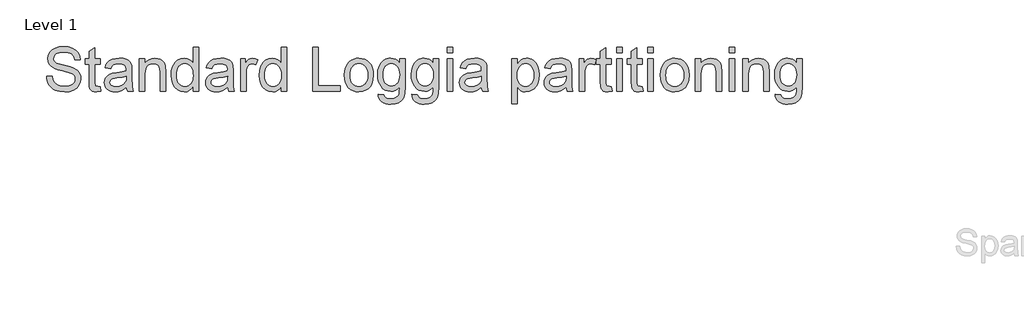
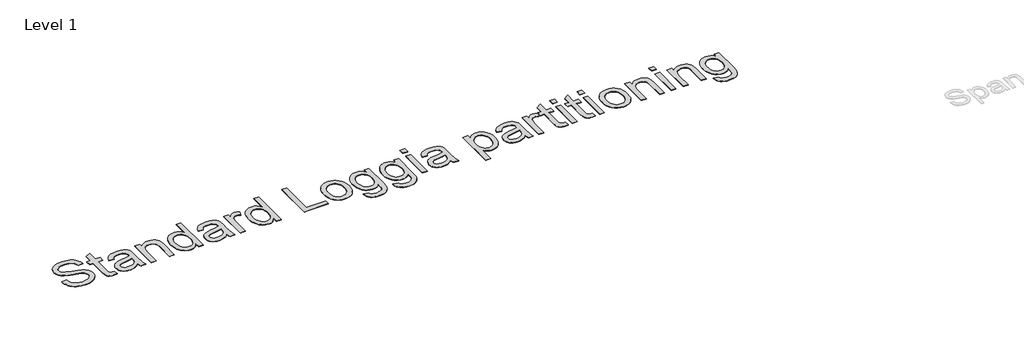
# One storey, part 37 of 69: 1 proxy.
"""IFC4 building model written with IfcOpenShell, lengths in millimetres."""

from ifc_helpers import new_model, si_unit, origin, origin_with_axes, place, context, project, spatial, polyline, outline, extrude, element, save

model = new_model("IFC4")

# Units and contexts
model_context = context("Model", 3, world=origin())
ifc_project = project(units=[si_unit("LENGTHUNIT", "METRE", prefix="MILLI")], contexts=[model_context])

# Site, building, storey
site = spatial("IfcSite", under=ifc_project)
building = spatial("IfcBuilding", under=site)
storey = spatial("IfcBuildingStorey", under=building, Name="Level 1", Elevation=0.0)

# Proxy
placement = place(None, origin())
element("IfcBuildingElementProxy", 1, Name="500mm Arial", ObjectType="500mm Arial", at=placement, inside=storey, context=model_context, shape_type="SweptSolid", body=[
    extrude(outline(polyline([(222966.175153, -5103.5785589), (223028.9603468, -5103.5785589), (223036.1647026, -5138.4200495), (223049.1938566, -5166.4250664), (223069.5193368, -5188.6512703), (223098.6126712, -5206.1563219), (223134.1745974, -5217.5146785), (223173.9058529, -5221.3007973), (223208.8852993, -5218.4343834), (223239.5114754, -5209.8351418), (223264.3281817, -5196.223508), (223281.8792185, -5178.3199176), (223292.3178701, -5157.7645111), (223295.7974207, -5136.1974291), (223293.1915899, -5115.1821701), (223285.3740975, -5097.0179966), (223269.493858, -5081.5209676), (223242.699786, -5068.507142), (223151.2811102, -5044.5334986), (223091.2703598, -5028.6685876), (223052.8726765, -5013.5700974), (223021.6180353, -4992.4475395), (222999.4684735, -4966.849084), (222986.270707, -4937.3265539), (222981.8714514, -4904.4317721), (222987.3130393, -4867.658901), (223003.6378028, -4833.3692334), (223015.7740766, -4817.8415475), (223030.4165464, -4804.3065558), (223067.2200743, -4783.2146547), (223111.3965706, -4770.3847702), (223160.2942191, -4766.108142), (223213.2692264, -4770.5840396), (223259.6223578, -4784.0117324), (223297.6981443, -4806.1153089), (223313.0112324, -4820.3170868), (223325.8411169, -4836.6188577), (223343.6527369, -4873.6216551), (223350.7344653, -4915.2229773), (223287.9492714, -4915.2229773), (223283.7492853, -4895.188737), (223276.4223023, -4877.7603275), (223265.9683222, -4862.9377488), (223252.3873452, -4850.7210009), (223235.4264524, -4841.1713974), (223214.8327249, -4834.3502521), (223162.7467657, -4828.8933358), (223109.4345333, -4834.2889384), (223089.0554036, -4841.0334416), (223072.8609316, -4850.4757462), (223060.5215563, -4861.8264386), (223051.7077169, -4874.2961054), (223046.4194132, -4887.8847466), (223044.6566453, -4902.5923622), (223049.6537091, -4926.7192897), (223064.6449004, -4946.1250649), (223078.4098183, -4954.7549634), (223100.0841992, -4963.4768324), (223167.1613497, -4981.1964818), (223236.3844784, -4998.0270831), (223278.2617122, -5012.7117061), (223314.0535647, -5035.4897329), (223339.0235551, -5063.6020487), (223353.6928497, -5096.7420851), (223358.5826145, -5134.6032738), (223352.9570857, -5173.3075254), (223336.0804991, -5209.7125145), (223308.6426337, -5241.0437977), (223271.333268, -5264.5269318), (223226.466993, -5279.1962263), (223176.3583996, -5284.0859912), (223114.8454643, -5278.8130159), (223088.1701875, -5272.2217968), (223064.2157047, -5262.9940901), (223042.8363958, -5251.1145674), (223023.886641, -5236.5679001), (223007.3664401, -5219.3540884), (222993.2757933, -5199.4731323), (222981.9251009, -5177.5688251), (222973.6247634, -5154.2849605), (222968.3747807, -5129.6215384), (222966.175153, -5103.5785589)])), origin_with_axes(), (0.0, 0.0, 1.0), 5.0),
    extrude(outline(polyline([(223578.330793, -5223.8759713), (223586.1789422, -5278.0772519), (223539.2126741, -5284.0859912), (223509.0770074, -5281.4801604), (223486.6055488, -5273.662668), (223470.7253094, -5261.6145326), (223460.3632998, -5246.316773), (223454.6611289, -5220.0438672), (223452.7604053, -5175.0702933), (223452.7604053, -4970.160022), (223405.6715099, -4970.160022), (223405.6715099, -4907.3748281), (223452.7604053, -4907.3748281), (223452.7604053, -4817.7342486), (223515.5455991, -4780.8234218), (223515.5455991, -4907.3748281), (223578.330793, -4907.3748281), (223578.330793, -4970.160022), (223515.5455991, -4970.160022), (223515.5455991, -5173.2308833), (223518.8565371, -5205.6044989), (223529.5864286, -5217.0701544), (223550.984898, -5221.3007973), (223578.330793, -5223.8759713)])), origin_with_axes(), (0.0, 0.0, 1.0), 5.0),
    extrude(outline(polyline([(223876.5604637, -5229.1489466), (223846.5627527, -5254.8700294), (223815.6759935, -5271.7006307), (223783.195079, -5280.989651), (223748.4149021, -5284.0859912), (223720.4597025, -5282.2235886), (223695.9457325, -5276.6363808), (223674.872992, -5267.3243678), (223657.2414809, -5254.2875496), (223643.3194467, -5238.3536606), (223633.3751365, -5220.3504355), (223627.4085504, -5200.2778741), (223625.4196883, -5178.1359766), (223628.424058, -5152.1083254), (223637.4371669, -5128.4719072), (223651.3400406, -5108.2383975), (223669.0137048, -5092.4194717), (223689.7837091, -5080.4633068), (223712.9756032, -5071.81808), (223767.2995111, -5062.3757754), (223831.4949193, -5052.4429615), (223876.1925817, -5040.793365), (223876.5604637, -5026.8138492), (223872.2378503, -4998.7935039), (223859.2700099, -4980.4607178), (223846.1948707, -4972.5205981), (223830.268646, -4966.849084), (223789.8629402, -4962.3118727), (223752.461604, -4965.3315708), (223726.3419824, -4974.3906649), (223708.5303624, -4991.1446241), (223696.0530314, -5017.2489173), (223633.2678376, -5009.4007681), (223644.1663417, -4975.0651152), (223660.4297915, -4948.0871022), (223683.5757004, -4927.4550537), (223715.1215815, -4912.157294), (223753.7032057, -4902.6843327), (223797.9563441, -4899.5266789), (223840.4007293, -4902.3164507), (223874.0466034, -4910.6857661), (223899.4151327, -4923.270396), (223917.0274832, -4938.7061114), (223928.7077365, -4957.7899899), (223936.2799743, -4981.3191091), (223939.3456576, -5036.2561538), (223939.3456576, -5114.3697641), (223942.5339682, -5223.4467756), (223947.2551205, -5250.4094602), (223955.041956, -5276.2378419), (223892.2567622, -5276.2378419), (223882.201321, -5254.4101769), (223876.5604637, -5229.1489466)]), holes=[polyline([(223876.5604637, -5103.5785589), (223834.3766616, -5114.0325389), (223775.2702877, -5122.83105), (223721.2529481, -5133.0091185), (223707.1967902, -5139.9682196), (223696.7887954, -5149.5638083), (223690.3508605, -5161.0601206), (223688.2048822, -5173.7213926), (223692.8800492, -5192.3914039), (223706.9055503, -5207.6891635), (223729.9748171, -5217.8978889), (223761.7812812, -5221.3007973), (223795.5037974, -5217.5453353), (223825.3022391, -5206.2789492), (223849.4598234, -5189.6782742), (223866.2597679, -5169.9199453), (223873.7093783, -5149.5638083), (223876.1925817, -5121.359522), (223876.5604637, -5103.5785589)])]), origin_with_axes(), (0.0, 0.0, 1.0), 5.0),
    extrude(outline(polyline([(224025.6752991, -5276.2378419), (224025.6752991, -4907.3748281), (224088.4604929, -4907.3748281), (224088.4604929, -4958.8783074), (224110.2728296, -4932.9119699), (224136.4690933, -4914.364586), (224167.0492842, -4903.2361557), (224202.0134021, -4899.5266789), (224232.961475, -4902.5157201), (224261.303717, -4911.4828437), (224284.9401352, -4925.3090754), (224301.7707365, -4942.8754406), (224313.1904067, -4964.1359543), (224320.5940319, -4989.044631), (224323.9049699, -5049.7451602), (224323.9049699, -5276.2378419), (224261.119776, -5276.2378419), (224261.119776, -5058.2064461), (224259.3110229, -5025.7408601), (224253.8847634, -5002.6562649), (224243.8753075, -4986.1169035), (224228.3169648, -4973.2870189), (224208.3746949, -4965.0556593), (224185.2134577, -4962.3118727), (224166.1487397, -4963.8523786), (224148.4405866, -4968.4738961), (224132.0889983, -4976.1764254), (224117.0939749, -4986.9599664), (224104.5668265, -5002.0507924), (224095.6188634, -5022.6751768), (224090.2500856, -5048.8331195), (224088.4604929, -5080.5246205), (224088.4604929, -5276.2378419), (224025.6752991, -5276.2378419)])), origin_with_axes(), (0.0, 0.0, 1.0), 5.0),
    extrude(outline(polyline([(224637.8309391, -5276.2378419), (224637.8309391, -5217.0088407), (224619.0459647, -5246.355094), (224596.2909304, -5267.3167036), (224569.5658363, -5279.8936693), (224538.8706824, -5284.0859912), (224498.2810356, -5278.0159382), (224461.1249541, -5259.8057795), (224429.6710435, -5230.7277735), (224406.1879094, -5192.0541787), (224391.5646001, -5145.3484937), (224386.6901637, -5092.174217), (224391.1813897, -5039.6590622), (224404.6550678, -4992.2329417), (224414.7564942, -4971.1027196), (224427.0958695, -4952.5936567), (224441.6731936, -4936.705753), (224458.4884664, -4923.4390086), (224496.456954, -4905.5047613), (224538.6254277, -4899.5266789), (224569.3435743, -4903.8033071), (224596.5055283, -4916.6331917), (224619.5288098, -4936.29955), (224637.8309391, -4961.0855994), (224637.8309391, -4773.9562912), (224700.6161329, -4773.9562912), (224700.6161329, -5276.2378419), (224637.8309391, -5276.2378419)]), holes=[polyline([(224449.4753575, -5091.9289624), (224451.2457896, -5122.3750296), (224456.5570859, -5148.7207454), (224465.4092465, -5170.9661098), (224477.8022712, -5189.1111227), (224492.6018573, -5203.1941054), (224508.6737019, -5213.2533787), (224526.0178052, -5219.2889427), (224544.634167, -5221.3007973), (224563.3386671, -5219.3809132), (224580.5793036, -5213.6212607), (224596.3560762, -5204.0218399), (224610.6689851, -5190.5826507), (224622.55234, -5173.1963944), (224631.0404506, -5151.7557718), (224636.1333169, -5126.2607831), (224637.8309391, -5096.7114283), (224636.1026601, -5064.3148201), (224630.9178232, -5036.5320652), (224622.2764285, -5013.3631638), (224610.1784758, -4994.8081156), (224595.5513344, -4980.5910094), (224579.3223734, -4970.4359334), (224561.491593, -4964.3428879), (224542.058993, -4962.3118727), (224523.0747492, -4964.2624137), (224505.730646, -4970.1140367), (224490.0266833, -4979.8667417), (224475.9628612, -4993.5205286), (224464.3745783, -5011.3743017), (224456.0972335, -5033.726965), (224451.1308265, -5060.5785186), (224449.4753575, -5091.9289624)])]), origin_with_axes(), (0.0, 0.0, 1.0), 5.0),
    extrude(outline(polyline([(225030.2384006, -5229.1489466), (225000.2406896, -5254.8700294), (224969.3539304, -5271.7006307), (224936.8730159, -5280.989651), (224902.0928389, -5284.0859912), (224874.1376394, -5282.2235886), (224849.6236694, -5276.6363808), (224828.5509288, -5267.3243678), (224810.9194178, -5254.2875496), (224796.9973835, -5238.3536606), (224787.0530734, -5220.3504355), (224781.0864873, -5200.2778741), (224779.0976252, -5178.1359766), (224782.1019948, -5152.1083254), (224791.1151037, -5128.4719072), (224805.0179775, -5108.2383975), (224822.6916416, -5092.4194717), (224843.461646, -5080.4633068), (224866.6535401, -5071.81808), (224920.977448, -5062.3757754), (224985.1728562, -5052.4429615), (225029.8705186, -5040.793365), (225030.2384006, -5026.8138492), (225025.9157871, -4998.7935039), (225012.9479468, -4980.4607178), (224999.8728076, -4972.5205981), (224983.9465829, -4966.849084), (224943.5408771, -4962.3118727), (224906.1395409, -4965.3315708), (224880.0199192, -4974.3906649), (224862.2082993, -4991.1446241), (224849.7309683, -5017.2489173), (224786.9457744, -5009.4007681), (224797.8442786, -4975.0651152), (224814.1077284, -4948.0871022), (224837.2536373, -4927.4550537), (224868.7995184, -4912.157294), (224907.3811426, -4902.6843327), (224951.634281, -4899.5266789), (224994.0786661, -4902.3164507), (225027.7245403, -4910.6857661), (225053.0930695, -4923.270396), (225070.7054201, -4938.7061114), (225082.3856734, -4957.7899899), (225089.9579111, -4981.3191091), (225093.0235944, -5036.2561538), (225093.0235944, -5114.3697641), (225096.2119051, -5223.4467756), (225100.9330573, -5250.4094602), (225108.7198929, -5276.2378419), (225045.9346991, -5276.2378419), (225035.8792578, -5254.4101769), (225030.2384006, -5229.1489466)]), holes=[polyline([(225030.2384006, -5103.5785589), (224988.0545985, -5114.0325389), (224928.9482246, -5122.83105), (224874.930885, -5133.0091185), (224860.8747271, -5139.9682196), (224850.4667323, -5149.5638083), (224844.0287974, -5161.0601206), (224841.8828191, -5173.7213926), (224846.5579861, -5192.3914039), (224860.5834871, -5207.6891635), (224883.6527539, -5217.8978889), (224915.4592181, -5221.3007973), (224949.1817343, -5217.5453353), (224978.9801759, -5206.2789492), (225003.1377603, -5189.6782742), (225019.9377047, -5169.9199453), (225027.3873151, -5149.5638083), (225029.8705186, -5121.359522), (225030.2384006, -5103.5785589)])]), origin_with_axes(), (0.0, 0.0, 1.0), 5.0),
    extrude(outline(polyline([(225179.353236, -5276.2378419), (225179.353236, -4907.3748281), (225234.2902806, -4907.3748281), (225234.2902806, -4961.9439907), (225254.585104, -4930.3061391), (225273.2857721, -4911.6667847), (225292.0477538, -4902.5617053), (225312.5265182, -4899.5266789), (225343.7964878, -4904.3704585), (225375.5569667, -4918.9017973), (225354.587693, -4975.1877426), (225332.5147733, -4965.5308402), (225310.4418536, -4962.3118727), (225291.6952002, -4965.4082128), (225274.941241, -4974.6972332), (225261.4062493, -4989.4738267), (225252.3164983, -5009.0328861), (225244.6829469, -5044.104303), (225242.1384298, -5082.3640305), (225242.1384298, -5276.2378419), (225179.353236, -5276.2378419)])), origin_with_axes(), (0.0, 0.0, 1.0), 5.0),
    extrude(outline(polyline([(225642.3940406, -5276.2378419), (225642.3940406, -5217.0088407), (225623.6090662, -5246.355094), (225600.8540319, -5267.3167036), (225574.1289378, -5279.8936693), (225543.4337839, -5284.0859912), (225502.8441371, -5278.0159382), (225465.6880555, -5259.8057795), (225434.234145, -5230.7277735), (225410.7510109, -5192.0541787), (225396.1277016, -5145.3484937), (225391.2532652, -5092.174217), (225395.7444912, -5039.6590622), (225409.2181693, -4992.2329417), (225419.3195957, -4971.1027196), (225431.658971, -4952.5936567), (225446.2362951, -4936.705753), (225463.0515679, -4923.4390086), (225501.0200555, -4905.5047613), (225543.1885292, -4899.5266789), (225573.9066758, -4903.8033071), (225601.0686298, -4916.6331917), (225624.0919113, -4936.29955), (225642.3940406, -4961.0855994), (225642.3940406, -4773.9562912), (225705.1792344, -4773.9562912), (225705.1792344, -5276.2378419), (225642.3940406, -5276.2378419)]), holes=[polyline([(225454.038459, -5091.9289624), (225455.8088911, -5122.3750296), (225461.1201874, -5148.7207454), (225469.9723479, -5170.9661098), (225482.3653727, -5189.1111227), (225497.1649588, -5203.1941054), (225513.2368034, -5213.2533787), (225530.5809067, -5219.2889427), (225549.1972685, -5221.3007973), (225567.9017686, -5219.3809132), (225585.1424051, -5213.6212607), (225600.9191777, -5204.0218399), (225615.2320866, -5190.5826507), (225627.1154415, -5173.1963944), (225635.6035521, -5151.7557718), (225640.6964184, -5126.2607831), (225642.3940406, -5096.7114283), (225640.6657616, -5064.3148201), (225635.4809247, -5036.5320652), (225626.83953, -5013.3631638), (225614.7415773, -4994.8081156), (225600.1144358, -4980.5910094), (225583.8854749, -4970.4359334), (225566.0546945, -4964.3428879), (225546.6220945, -4962.3118727), (225527.6378507, -4964.2624137), (225510.2937475, -4970.1140367), (225494.5897848, -4979.8667417), (225480.5259627, -4993.5205286), (225468.9376798, -5011.3743017), (225460.6603349, -5033.726965), (225455.693928, -5060.5785186), (225454.038459, -5091.9289624)])]), origin_with_axes(), (0.0, 0.0, 1.0), 5.0),
    extrude(outline(polyline([(226003.4089052, -5276.2378419), (226003.4089052, -4773.9562912), (226066.194099, -4773.9562912), (226066.194099, -5213.4526481), (226317.3348744, -5213.4526481), (226317.3348744, -5276.2378419), (226003.4089052, -5276.2378419)])), origin_with_axes(), (0.0, 0.0, 1.0), 5.0),
    extrude(outline(polyline([(226364.4237698, -5091.806335), (226367.819014, -5044.0353251), (226378.0047468, -5002.8708627), (226394.980968, -4968.3129478), (226418.7476777, -4940.3615803), (226442.6753358, -4922.496311), (226469.0861974, -4909.7354042), (226497.9802624, -4902.0788602), (226529.3575309, -4899.5266789), (226563.99592, -4902.6345153), (226595.315707, -4911.9580246), (226623.3168918, -4927.4972068), (226647.9994744, -4949.2520619), (226668.1448457, -4976.4868258), (226682.5343967, -5008.4657347), (226691.1681273, -5045.1887884), (226694.0460374, -5086.6559871), (226688.9570032, -5150.0849744), (226682.5957103, -5176.1202898), (226673.6899004, -5198.3694863), (226662.3507043, -5217.5874884), (226648.6892531, -5234.5292207), (226632.7055469, -5249.1946832), (226614.3995855, -5261.5838758), (226573.6719829, -5278.4604623), (226529.3575309, -5284.0859912), (226494.2133041, -5280.989651), (226462.6022772, -5271.7006307), (226434.5244504, -5256.21893), (226409.9798235, -5234.5445492), (226390.04905, -5207.04537), (226375.8127832, -5174.0892746), (226367.2710231, -5135.6762629), (226364.4237698, -5091.806335)]), holes=[polyline([(226427.2089636, -5091.6837077), (226429.025381, -5122.1374391), (226434.474633, -5148.5061475), (226443.5567198, -5170.789833), (226456.2716412, -5188.9884954), (226471.7380134, -5203.1251275), (226489.0744525, -5213.2227218), (226508.2809583, -5219.2812785), (226529.3575309, -5221.3007973), (226550.3268047, -5219.2697821), (226569.4566684, -5213.1767366), (226586.7471222, -5203.0216607), (226602.198166, -5188.8045544), (226614.9130874, -5170.4257831), (226623.9951742, -5147.785712), (226629.4444262, -5120.8843411), (226631.2608436, -5089.7216704), (226629.4329299, -5060.2336292), (226623.9491889, -5034.5546995), (226614.8096206, -5012.6848813), (226602.014225, -4994.6241746), (226586.5056996, -4980.4875425), (226569.2267422, -4970.3899482), (226550.1773526, -4964.3313916), (226529.3575309, -4962.3118727), (226508.2809583, -4964.3237274), (226489.0744525, -4970.3592914), (226471.7380134, -4980.4185647), (226456.2716412, -4994.5015473), (226443.5567198, -5012.6465603), (226434.474633, -5034.8919247), (226429.025381, -5061.2376405), (226427.2089636, -5091.6837077)])]), origin_with_axes(), (0.0, 0.0, 1.0), 5.0),
    extrude(outline(polyline([(226748.9830821, -5307.6304389), (226811.7682759, -5315.4785881), (226818.6967201, -5335.0989612), (226832.124413, -5348.5879677), (226858.5199461, -5359.0726045), (226893.0701968, -5362.5674835), (226929.91971, -5358.612752), (226957.3269187, -5346.7485577), (226976.3341551, -5327.7413213), (226987.9837516, -5302.3574636), (226991.38666, -5275.3487938), (226992.2757082, -5229.1489466), (226971.3830766, -5249.7503383), (226948.0685551, -5264.4656181), (226922.3321439, -5273.294786), (226894.1738428, -5276.2378419), (226859.7500515, -5272.8119409), (226829.4419401, -5262.5342376), (226803.2495084, -5245.4047322), (226781.1727566, -5221.4234247), (226763.6562087, -5192.651987), (226751.1443888, -5161.1520911), (226743.6372968, -5126.9237371), (226741.1349328, -5089.966925), (226745.6261588, -5039.2758518), (226759.0998369, -4992.6621373), (226781.0807861, -4953.1608081), (226795.0832946, -4937.2154229), (226811.0938256, -4923.8068906), (226828.8556282, -4913.1842979), (226848.1119513, -4905.5967318), (226868.8627951, -4901.0441921), (226891.1081595, -4899.5266789), (226920.4697413, -4902.9602442), (226947.1181933, -4913.26094), (226971.0535156, -4930.4287665), (226992.2757082, -4954.4637235), (226992.2757082, -4907.3748281), (227055.060902, -4907.3748281), (227055.060902, -5225.8380086), (227050.7689454, -5299.3684224), (227045.4039997, -5326.7181495), (227037.8930756, -5347.79089), (227015.712857, -5379.9039225), (226983.507854, -5404.5060309), (226963.8223351, -5413.6264387), (226941.9831738, -5420.1410157), (226891.8439235, -5425.3526773), (226861.0836238, -5423.5170994), (226833.4273284, -5418.0103658), (226808.8750373, -5408.8324765), (226787.4267506, -5395.9834314), (226770.1018078, -5379.4479021), (226757.9195489, -5359.2105603), (226750.8799736, -5335.2714059), (226748.9830821, -5307.6304389)]), holes=[polyline([(226803.9201267, -5085.6749684), (226805.5947562, -5116.7188439), (226810.6186447, -5143.2638291), (226818.9917922, -5165.3099241), (226830.7141987, -5182.8571288), (226844.9657939, -5196.2426685), (226860.9265075, -5205.8037683), (226878.5963396, -5211.5404281), (226897.9752901, -5213.4526481), (226917.1626354, -5211.5519245), (226934.7481612, -5205.8497535), (226950.7318675, -5196.3461353), (226965.1137542, -5183.0410698), (226976.9971091, -5165.6663098), (226985.4852197, -5143.9536078), (226990.5780861, -5117.9029641), (226992.2757082, -5087.5143784), (226990.5282687, -5058.3942192), (226985.2859503, -5033.0831715), (226976.5487529, -5011.5812353), (226964.3166766, -4993.8884106), (226949.6243894, -4980.0736753), (226933.5065595, -4970.2060072), (226915.9631868, -4964.2854063), (226896.9942714, -4962.3118727), (226878.3434207, -4964.2547495), (226861.1411053, -4970.0833799), (226845.3873253, -4979.7977638), (226831.0820806, -4993.3979013), (226819.1987258, -5010.8224787), (226810.7106152, -5032.0101824), (226805.6177488, -5056.9610123), (226803.9201267, -5085.6749684)])]), origin_with_axes(), (0.0, 0.0, 1.0), 5.0),
    extrude(outline(polyline([(227133.5423943, -5307.6304389), (227196.3275882, -5315.4785881), (227203.2560324, -5335.0989612), (227216.6837253, -5348.5879677), (227243.0792584, -5359.0726045), (227277.6295091, -5362.5674835), (227314.4790223, -5358.612752), (227341.8862309, -5346.7485577), (227360.8934674, -5327.7413213), (227372.5430639, -5302.3574636), (227375.9459723, -5275.3487938), (227376.8350205, -5229.1489466), (227355.9423888, -5249.7503383), (227332.6278674, -5264.4656181), (227306.8914562, -5273.294786), (227278.7331551, -5276.2378419), (227244.3093638, -5272.8119409), (227214.0012524, -5262.5342376), (227187.8088207, -5245.4047322), (227165.7320689, -5221.4234247), (227148.215521, -5192.651987), (227135.7037011, -5161.1520911), (227128.1966091, -5126.9237371), (227125.6942451, -5089.966925), (227130.1854711, -5039.2758518), (227143.6591492, -4992.6621373), (227165.6400984, -4953.1608081), (227179.6426069, -4937.2154229), (227195.6531379, -4923.8068906), (227213.4149404, -4913.1842979), (227232.6712636, -4905.5967318), (227253.4221074, -4901.0441921), (227275.6674718, -4899.5266789), (227305.0290536, -4902.9602442), (227331.6775056, -4913.26094), (227355.6128279, -4930.4287665), (227376.8350205, -4954.4637235), (227376.8350205, -4907.3748281), (227439.6202143, -4907.3748281), (227439.6202143, -5225.8380086), (227435.3282577, -5299.3684224), (227429.963312, -5326.7181495), (227422.4523879, -5347.79089), (227400.2721693, -5379.9039225), (227368.0671663, -5404.5060309), (227348.3816474, -5413.6264387), (227326.5424861, -5420.1410157), (227276.4032358, -5425.3526773), (227245.6429361, -5423.5170994), (227217.9866407, -5418.0103658), (227193.4343496, -5408.8324765), (227171.9860628, -5395.9834314), (227154.6611201, -5379.4479021), (227142.4788611, -5359.2105603), (227135.4392859, -5335.2714059), (227133.5423943, -5307.6304389)]), holes=[polyline([(227188.479439, -5085.6749684), (227190.1540685, -5116.7188439), (227195.177957, -5143.2638291), (227203.5511045, -5165.3099241), (227215.2735109, -5182.8571288), (227229.5251062, -5196.2426685), (227245.4858198, -5205.8037683), (227263.1556519, -5211.5404281), (227282.5346024, -5213.4526481), (227301.7219477, -5211.5519245), (227319.3074735, -5205.8497535), (227335.2911798, -5196.3461353), (227349.6730665, -5183.0410698), (227361.5564214, -5165.6663098), (227370.044532, -5143.9536078), (227375.1373984, -5117.9029641), (227376.8350205, -5087.5143784), (227375.087581, -5058.3942192), (227369.8452626, -5033.0831715), (227361.1080652, -5011.5812353), (227348.8759889, -4993.8884106), (227334.1837017, -4980.0736753), (227318.0658718, -4970.2060072), (227300.5224991, -4964.2854063), (227281.5535837, -4962.3118727), (227262.902733, -4964.2547495), (227245.7004176, -4970.0833799), (227229.9466376, -4979.7977638), (227215.6413929, -4993.3979013), (227203.7580381, -5010.8224787), (227195.2699275, -5032.0101824), (227190.1770611, -5056.9610123), (227188.479439, -5085.6749684)])]), origin_with_axes(), (0.0, 0.0, 1.0), 5.0),
    extrude(outline(polyline([(227533.7980051, -5276.2378419), (227533.7980051, -4907.3748281), (227596.5831989, -4907.3748281), (227596.5831989, -5276.2378419), (227533.7980051, -5276.2378419)])), origin_with_axes(), (0.0, 0.0, 1.0), 5.0),
    extrude(outline(polyline([(227533.7980051, -4836.741485), (227533.7980051, -4773.9562912), (227596.5831989, -4773.9562912), (227596.5831989, -4836.741485), (227533.7980051, -4836.741485)])), origin_with_axes(), (0.0, 0.0, 1.0), 5.0),
    extrude(outline(polyline([(227926.2054666, -5229.1489466), (227896.2077556, -5254.8700294), (227865.3209964, -5271.7006307), (227832.8400819, -5280.989651), (227798.059905, -5284.0859912), (227770.1047054, -5282.2235886), (227745.5907354, -5276.6363808), (227724.5179949, -5267.3243678), (227706.8864838, -5254.2875496), (227692.9644496, -5238.3536606), (227683.0201394, -5220.3504355), (227677.0535533, -5200.2778741), (227675.0646912, -5178.1359766), (227678.0690609, -5152.1083254), (227687.0821698, -5128.4719072), (227700.9850435, -5108.2383975), (227718.6587077, -5092.4194717), (227739.428712, -5080.4633068), (227762.6206061, -5071.81808), (227816.9445141, -5062.3757754), (227881.1399222, -5052.4429615), (227925.8375846, -5040.793365), (227926.2054666, -5026.8138492), (227921.8828532, -4998.7935039), (227908.9150128, -4980.4607178), (227895.8398736, -4972.5205981), (227879.9136489, -4966.849084), (227839.5079431, -4962.3118727), (227802.1066069, -4965.3315708), (227775.9869853, -4974.3906649), (227758.1753653, -4991.1446241), (227745.6980343, -5017.2489173), (227682.9128405, -5009.4007681), (227693.8113446, -4975.0651152), (227710.0747945, -4948.0871022), (227733.2207033, -4927.4550537), (227764.7665844, -4912.157294), (227803.3482086, -4902.6843327), (227847.601347, -4899.5266789), (227890.0457322, -4902.3164507), (227923.6916063, -4910.6857661), (227949.0601356, -4923.270396), (227966.6724861, -4938.7061114), (227978.3527394, -4957.7899899), (227985.9249772, -4981.3191091), (227988.9906605, -5036.2561538), (227988.9906605, -5114.3697641), (227992.1789711, -5223.4467756), (227996.9001234, -5250.4094602), (228004.6869589, -5276.2378419), (227941.9017651, -5276.2378419), (227931.8463239, -5254.4101769), (227926.2054666, -5229.1489466)]), holes=[polyline([(227926.2054666, -5103.5785589), (227884.0216645, -5114.0325389), (227824.9152906, -5122.83105), (227770.897951, -5133.0091185), (227756.8417931, -5139.9682196), (227746.4337983, -5149.5638083), (227739.9958634, -5161.0601206), (227737.8498851, -5173.7213926), (227742.5250521, -5192.3914039), (227756.5505532, -5207.6891635), (227779.61982, -5217.8978889), (227811.4262841, -5221.3007973), (227845.1488004, -5217.5453353), (227874.947242, -5206.2789492), (227899.1048263, -5189.6782742), (227915.9047708, -5169.9199453), (227923.3543812, -5149.5638083), (227925.8375846, -5121.359522), (227926.2054666, -5103.5785589)])]), origin_with_axes(), (0.0, 0.0, 1.0), 5.0),
    extrude(outline(polyline([(228271.5240328, -5417.5045281), (228271.5240328, -4907.3748281), (228334.3092266, -4907.3748281), (228334.3092266, -4968.9337486), (228354.787991, -4938.5681556), (228377.719302, -4916.8784463), (228404.4520604, -4903.8646207), (228436.3351666, -4899.5266789), (228458.2318095, -4901.0441921), (228478.7948802, -4905.5967318), (228498.0243787, -4913.1842979), (228515.9203049, -4923.8068906), (228532.0917843, -4937.1885981), (228546.1479422, -4953.0535092), (228567.9142935, -4992.2329417), (228581.0660749, -5038.4941026), (228585.450002, -5088.9859064), (228580.4989235, -5142.6813493), (228565.6456879, -5190.7052781), (228554.6245565, -5211.9811201), (228541.3654762, -5230.6204745), (228525.8684472, -5246.6233413), (228508.1334693, -5259.9897205), (228469.4292177, -5278.0619235), (228428.732272, -5284.0859912), (228399.8688638, -5280.0546176), (228374.1017957, -5267.960497), (228352.0442045, -5249.704353), (228334.3092266, -5227.1869092), (228334.3092266, -5417.5045281), (228271.5240328, -5417.5045281)]), holes=[polyline([(228334.3092266, -5094.749391), (228336.0068487, -5125.0076851), (228341.0997151, -5151.0353362), (228349.5878257, -5172.8323445), (228361.4711806, -5190.3987097), (228375.7764252, -5203.9183731), (228391.5302053, -5213.5752754), (228408.7325206, -5219.3694169), (228427.3833714, -5221.3007973), (228446.3024694, -5219.300439), (228463.8190173, -5213.2993639), (228479.9330151, -5203.2975722), (228494.6444628, -5189.2950637), (228506.9033639, -5171.0925692), (228515.6597218, -5148.4908191), (228520.9135366, -5121.4898135), (228522.6648081, -5090.0895524), (228520.9556897, -5060.0918414), (228515.8283344, -5034.1101754), (228507.2827422, -5012.1445547), (228495.3189132, -4994.194979), (228480.9791796, -4980.24612), (228465.3058737, -4970.2826493), (228448.2989957, -4964.3045669), (228429.9585454, -4962.3118727), (228411.6755766, -4964.4310263), (228394.4732612, -4970.788487), (228378.3515992, -4981.3842549), (228363.3105906, -4996.2183299), (228350.6224938, -5015.0914427), (228341.5595676, -5037.8043238), (228336.1218119, -5064.3569732), (228334.3092266, -5094.749391)])]), origin_with_axes(), (0.0, 0.0, 1.0), 5.0),
    extrude(outline(polyline([(228891.527822, -5229.1489466), (228861.5301109, -5254.8700294), (228830.6433518, -5271.7006307), (228798.1624373, -5280.989651), (228763.3822603, -5284.0859912), (228735.4270608, -5282.2235886), (228710.9130908, -5276.6363808), (228689.8403502, -5267.3243678), (228672.2088392, -5254.2875496), (228658.2868049, -5238.3536606), (228648.3424947, -5220.3504355), (228642.3759086, -5200.2778741), (228640.3870466, -5178.1359766), (228643.3914162, -5152.1083254), (228652.4045251, -5128.4719072), (228666.3073988, -5108.2383975), (228683.981063, -5092.4194717), (228704.7510673, -5080.4633068), (228727.9429614, -5071.81808), (228782.2668694, -5062.3757754), (228846.4622776, -5052.4429615), (228891.15994, -5040.793365), (228891.527822, -5026.8138492), (228887.2052085, -4998.7935039), (228874.2373682, -4980.4607178), (228861.1622289, -4972.5205981), (228845.2360042, -4966.849084), (228804.8302984, -4962.3118727), (228767.4289623, -4965.3315708), (228741.3093406, -4974.3906649), (228723.4977207, -4991.1446241), (228711.0203897, -5017.2489173), (228648.2351958, -5009.4007681), (228659.1336999, -4975.0651152), (228675.3971498, -4948.0871022), (228698.5430587, -4927.4550537), (228730.0889397, -4912.157294), (228768.670564, -4902.6843327), (228812.9237023, -4899.5266789), (228855.3680875, -4902.3164507), (228889.0139617, -4910.6857661), (228914.3824909, -4923.270396), (228931.9948414, -4938.7061114), (228943.6750948, -4957.7899899), (228951.2473325, -4981.3191091), (228954.3130158, -5036.2561538), (228954.3130158, -5114.3697641), (228957.5013264, -5223.4467756), (228962.2224787, -5250.4094602), (228970.0093143, -5276.2378419), (228907.2241204, -5276.2378419), (228897.1686792, -5254.4101769), (228891.527822, -5229.1489466)]), holes=[polyline([(228891.527822, -5103.5785589), (228849.3440199, -5114.0325389), (228790.237646, -5122.83105), (228736.2203063, -5133.0091185), (228722.1641484, -5139.9682196), (228711.7561537, -5149.5638083), (228705.3182187, -5161.0601206), (228703.1722404, -5173.7213926), (228707.8474075, -5192.3914039), (228721.8729085, -5207.6891635), (228744.9421753, -5217.8978889), (228776.7486395, -5221.3007973), (228810.4711557, -5217.5453353), (228840.2695973, -5206.2789492), (228864.4271817, -5189.6782742), (228881.2271261, -5169.9199453), (228888.6767365, -5149.5638083), (228891.15994, -5121.359522), (228891.527822, -5103.5785589)])]), origin_with_axes(), (0.0, 0.0, 1.0), 5.0),
    extrude(outline(polyline([(229040.6426573, -5276.2378419), (229040.6426573, -4907.3748281), (229095.579702, -4907.3748281), (229095.579702, -4961.9439907), (229115.8745254, -4930.3061391), (229134.5751934, -4911.6667847), (229153.3371752, -4902.5617053), (229173.8159396, -4899.5266789), (229205.0859092, -4904.3704585), (229236.8463881, -4918.9017973), (229215.8771144, -4975.1877426), (229193.8041947, -4965.5308402), (229171.731275, -4962.3118727), (229152.9846216, -4965.4082128), (229136.2306624, -4974.6972332), (229122.6956707, -4989.4738267), (229113.6059197, -5009.0328861), (229105.9723683, -5044.104303), (229103.4278512, -5082.3640305), (229103.4278512, -5276.2378419), (229040.6426573, -5276.2378419)])), origin_with_axes(), (0.0, 0.0, 1.0), 5.0),
    extrude(outline(polyline([(229409.5056712, -5223.8759713), (229417.3538204, -5278.0772519), (229370.3875524, -5284.0859912), (229340.2518856, -5281.4801604), (229317.780427, -5273.662668), (229301.9001876, -5261.6145326), (229291.5381781, -5246.316773), (229285.8360071, -5220.0438672), (229283.9352835, -5175.0702933), (229283.9352835, -4970.160022), (229236.8463881, -4970.160022), (229236.8463881, -4907.3748281), (229283.9352835, -4907.3748281), (229283.9352835, -4817.7342486), (229346.7204773, -4780.8234218), (229346.7204773, -4907.3748281), (229409.5056712, -4907.3748281), (229409.5056712, -4970.160022), (229346.7204773, -4970.160022), (229346.7204773, -5173.2308833), (229350.0314153, -5205.6044989), (229360.7613068, -5217.0701544), (229382.1597762, -5221.3007973), (229409.5056712, -5223.8759713)])), origin_with_axes(), (0.0, 0.0, 1.0), 5.0),
    extrude(outline(polyline([(229472.290865, -4836.741485), (229472.290865, -4773.9562912), (229535.0760589, -4773.9562912), (229535.0760589, -4836.741485), (229472.290865, -4836.741485)])), origin_with_axes(), (0.0, 0.0, 1.0), 5.0),
    extrude(outline(polyline([(229472.290865, -5276.2378419), (229472.290865, -4907.3748281), (229535.0760589, -4907.3748281), (229535.0760589, -5276.2378419), (229472.290865, -5276.2378419)])), origin_with_axes(), (0.0, 0.0, 1.0), 5.0),
    extrude(outline(polyline([(229762.6723865, -5223.8759713), (229770.5205358, -5278.0772519), (229723.5542677, -5284.0859912), (229693.418601, -5281.4801604), (229670.9471424, -5273.662668), (229655.066903, -5261.6145326), (229644.7048934, -5246.316773), (229639.0027225, -5220.0438672), (229637.1019989, -5175.0702933), (229637.1019989, -4970.160022), (229590.0131035, -4970.160022), (229590.0131035, -4907.3748281), (229637.1019989, -4907.3748281), (229637.1019989, -4817.7342486), (229699.8871927, -4780.8234218), (229699.8871927, -4907.3748281), (229762.6723865, -4907.3748281), (229762.6723865, -4970.160022), (229699.8871927, -4970.160022), (229699.8871927, -5173.2308833), (229703.1981307, -5205.6044989), (229713.9280222, -5217.0701544), (229735.3264916, -5221.3007973), (229762.6723865, -5223.8759713)])), origin_with_axes(), (0.0, 0.0, 1.0), 5.0),
    extrude(outline(polyline([(229825.4575804, -5276.2378419), (229825.4575804, -4907.3748281), (229888.2427742, -4907.3748281), (229888.2427742, -5276.2378419), (229825.4575804, -5276.2378419)])), origin_with_axes(), (0.0, 0.0, 1.0), 5.0),
    extrude(outline(polyline([(229825.4575804, -4836.741485), (229825.4575804, -4773.9562912), (229888.2427742, -4773.9562912), (229888.2427742, -4836.741485), (229825.4575804, -4836.741485)])), origin_with_axes(), (0.0, 0.0, 1.0), 5.0),
    extrude(outline(polyline([(229966.7242665, -5091.806335), (229970.1195108, -5044.0353251), (229980.3052435, -5002.8708627), (229997.2814648, -4968.3129478), (230021.0481745, -4940.3615803), (230044.9758326, -4922.496311), (230071.3866942, -4909.7354042), (230100.2807592, -4902.0788602), (230131.6580277, -4899.5266789), (230166.2964168, -4902.6345153), (230197.6162038, -4911.9580246), (230225.6173885, -4927.4972068), (230250.2999712, -4949.2520619), (230270.4453425, -4976.4868258), (230284.8348934, -5008.4657347), (230293.468624, -5045.1887884), (230296.3465342, -5086.6559871), (230291.2574999, -5150.0849744), (230284.8962071, -5176.1202898), (230275.9903971, -5198.3694863), (230264.6512011, -5217.5874884), (230250.9897499, -5234.5292207), (230235.0060436, -5249.1946832), (230216.7000823, -5261.5838758), (230175.9724797, -5278.4604623), (230131.6580277, -5284.0859912), (230096.5138009, -5280.989651), (230064.902774, -5271.7006307), (230036.8249471, -5256.21893), (230012.2803203, -5234.5445492), (229992.3495468, -5207.04537), (229978.11328, -5174.0892746), (229969.5715199, -5135.6762629), (229966.7242665, -5091.806335)]), holes=[polyline([(230029.5094604, -5091.6837077), (230031.3258777, -5122.1374391), (230036.7751298, -5148.5061475), (230045.8572165, -5170.789833), (230058.572138, -5188.9884954), (230074.0385102, -5203.1251275), (230091.3749492, -5213.2227218), (230110.5814551, -5219.2812785), (230131.6580277, -5221.3007973), (230152.6273014, -5219.2697821), (230171.7571652, -5213.1767366), (230189.047619, -5203.0216607), (230204.4986628, -5188.8045544), (230217.2135842, -5170.4257831), (230226.295671, -5147.785712), (230231.744923, -5120.8843411), (230233.5613404, -5089.7216704), (230231.7334267, -5060.2336292), (230226.2496857, -5034.5546995), (230217.1101174, -5012.6848813), (230204.3147218, -4994.6241746), (230188.8061964, -4980.4875425), (230171.5272389, -4970.3899482), (230152.4778494, -4964.3313916), (230131.6580277, -4962.3118727), (230110.5814551, -4964.3237274), (230091.3749492, -4970.3592914), (230074.0385102, -4980.4185647), (230058.572138, -4994.5015473), (230045.8572165, -5012.6465603), (230036.7751298, -5034.8919247), (230031.3258777, -5061.2376405), (230029.5094604, -5091.6837077)])]), origin_with_axes(), (0.0, 0.0, 1.0), 5.0),
    extrude(outline(polyline([(230366.9798773, -5276.2378419), (230366.9798773, -4907.3748281), (230429.7650711, -4907.3748281), (230429.7650711, -4958.8783074), (230451.5774078, -4932.9119699), (230477.7736715, -4914.364586), (230508.3538624, -4903.2361557), (230543.3179803, -4899.5266789), (230574.2660532, -4902.5157201), (230602.6082952, -4911.4828437), (230626.2447134, -4925.3090754), (230643.0753147, -4942.8754406), (230654.4949849, -4964.1359543), (230661.8986101, -4989.044631), (230665.209548, -5049.7451602), (230665.209548, -5276.2378419), (230602.4243542, -5276.2378419), (230602.4243542, -5058.2064461), (230600.6156011, -5025.7408601), (230595.1893416, -5002.6562649), (230585.1798857, -4986.1169035), (230569.621543, -4973.2870189), (230549.6792731, -4965.0556593), (230526.5180359, -4962.3118727), (230507.4533179, -4963.8523786), (230489.7451648, -4968.4738961), (230473.3935765, -4976.1764254), (230458.3985531, -4986.9599664), (230445.8714047, -5002.0507924), (230436.9234416, -5022.6751768), (230431.5546638, -5048.8331195), (230429.7650711, -5080.5246205), (230429.7650711, -5276.2378419), (230366.9798773, -5276.2378419)])), origin_with_axes(), (0.0, 0.0, 1.0), 5.0),
    extrude(outline(polyline([(230751.5391896, -5276.2378419), (230751.5391896, -4907.3748281), (230814.3243834, -4907.3748281), (230814.3243834, -5276.2378419), (230751.5391896, -5276.2378419)])), origin_with_axes(), (0.0, 0.0, 1.0), 5.0),
    extrude(outline(polyline([(230751.5391896, -4836.741485), (230751.5391896, -4773.9562912), (230814.3243834, -4773.9562912), (230814.3243834, -4836.741485), (230751.5391896, -4836.741485)])), origin_with_axes(), (0.0, 0.0, 1.0), 5.0),
    extrude(outline(polyline([(230908.5021742, -5276.2378419), (230908.5021742, -4907.3748281), (230971.287368, -4907.3748281), (230971.287368, -4958.8783074), (230993.0997047, -4932.9119699), (231019.2959684, -4914.364586), (231049.8761593, -4903.2361557), (231084.8402772, -4899.5266789), (231115.7883501, -4902.5157201), (231144.1305921, -4911.4828437), (231167.7670103, -4925.3090754), (231184.5976116, -4942.8754406), (231196.0172818, -4964.1359543), (231203.420907, -4989.044631), (231206.7318449, -5049.7451602), (231206.7318449, -5276.2378419), (231143.9466511, -5276.2378419), (231143.9466511, -5058.2064461), (231142.137898, -5025.7408601), (231136.7116385, -5002.6562649), (231126.7021826, -4986.1169035), (231111.1438399, -4973.2870189), (231091.20157, -4965.0556593), (231068.0403328, -4962.3118727), (231048.9756148, -4963.8523786), (231031.2674617, -4968.4738961), (231014.9158734, -4976.1764254), (230999.92085, -4986.9599664), (230987.3937016, -5002.0507924), (230978.4457385, -5022.6751768), (230973.0769607, -5048.8331195), (230971.287368, -5080.5246205), (230971.287368, -5276.2378419), (230908.5021742, -5276.2378419)])), origin_with_axes(), (0.0, 0.0, 1.0), 5.0),
    extrude(outline(polyline([(231277.365188, -5307.6304389), (231340.1503819, -5315.4785881), (231347.0788261, -5335.0989612), (231360.5065189, -5348.5879677), (231386.9020521, -5359.0726045), (231421.4523028, -5362.5674835), (231458.301816, -5358.612752), (231485.7090246, -5346.7485577), (231504.716261, -5327.7413213), (231516.3658576, -5302.3574636), (231519.768766, -5275.3487938), (231520.6578142, -5229.1489466), (231499.7651825, -5249.7503383), (231476.4506611, -5264.4656181), (231450.7142498, -5273.294786), (231422.5559488, -5276.2378419), (231388.1321575, -5272.8119409), (231357.824046, -5262.5342376), (231331.6316144, -5245.4047322), (231309.5548626, -5221.4234247), (231292.0383147, -5192.651987), (231279.5264947, -5161.1520911), (231272.0194028, -5126.9237371), (231269.5170388, -5089.966925), (231274.0082648, -5039.2758518), (231287.4819429, -4992.6621373), (231309.4628921, -4953.1608081), (231323.4654005, -4937.2154229), (231339.4759315, -4923.8068906), (231357.2377341, -4913.1842979), (231376.4940573, -4905.5967318), (231397.2449011, -4901.0441921), (231419.4902655, -4899.5266789), (231448.8518472, -4902.9602442), (231475.5002993, -4913.26094), (231499.4356216, -4930.4287665), (231520.6578142, -4954.4637235), (231520.6578142, -4907.3748281), (231583.443008, -4907.3748281), (231583.443008, -5225.8380086), (231579.1510514, -5299.3684224), (231573.7861056, -5326.7181495), (231566.2751816, -5347.79089), (231544.0949629, -5379.9039225), (231511.8899599, -5404.5060309), (231492.2044411, -5413.6264387), (231470.3652797, -5420.1410157), (231420.2260295, -5425.3526773), (231389.4657297, -5423.5170994), (231361.8094343, -5418.0103658), (231337.2571433, -5408.8324765), (231315.8088565, -5395.9834314), (231298.4839138, -5379.4479021), (231286.3016548, -5359.2105603), (231279.2620796, -5335.2714059), (231277.365188, -5307.6304389)]), holes=[polyline([(231332.3022326, -5085.6749684), (231333.9768621, -5116.7188439), (231339.0007506, -5143.2638291), (231347.3738981, -5165.3099241), (231359.0963046, -5182.8571288), (231373.3478998, -5196.2426685), (231389.3086135, -5205.8037683), (231406.9784455, -5211.5404281), (231426.3573961, -5213.4526481), (231445.5447414, -5211.5519245), (231463.1302672, -5205.8497535), (231479.1139734, -5196.3461353), (231493.4958602, -5183.0410698), (231505.3792151, -5165.6663098), (231513.8673257, -5143.9536078), (231518.960192, -5117.9029641), (231520.6578142, -5087.5143784), (231518.9103747, -5058.3942192), (231513.6680563, -5033.0831715), (231504.9308589, -5011.5812353), (231492.6987825, -4993.8884106), (231478.0064953, -4980.0736753), (231461.8886654, -4970.2060072), (231444.3452928, -4964.2854063), (231425.3763774, -4962.3118727), (231406.7255267, -4964.2547495), (231389.5232113, -4970.0833799), (231373.7694313, -4979.7977638), (231359.4641866, -4993.3979013), (231347.5808317, -5010.8224787), (231339.0927211, -5032.0101824), (231333.9998548, -5056.9610123), (231332.3022326, -5085.6749684)])]), origin_with_axes(), (0.0, 0.0, 1.0), 5.0),
])

save(model, "model.ifc")
